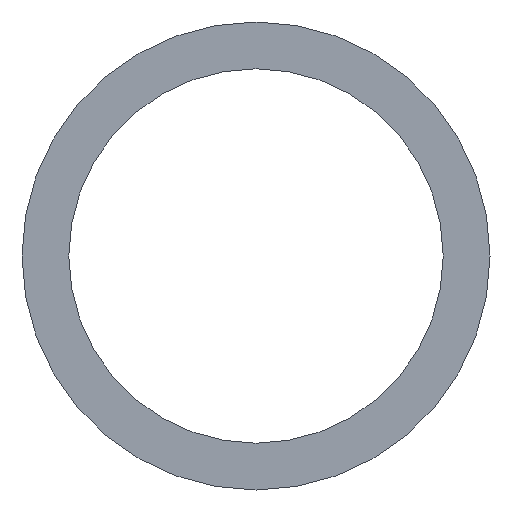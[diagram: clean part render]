
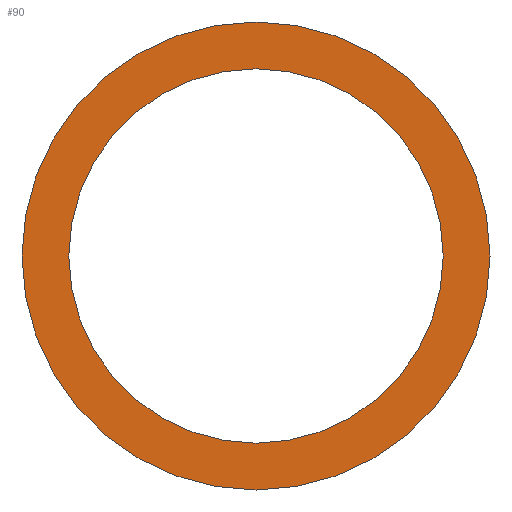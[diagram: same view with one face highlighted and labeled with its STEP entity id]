
A CAD part, front view. The second image highlights one B-rep face of the part: STEP entity #90.
In plain terms, the highlighted planar face has unit normal (0, -1, 0).
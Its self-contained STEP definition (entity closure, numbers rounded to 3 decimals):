
#1=CARTESIAN_POINT('',(0.,0.,0.));
#2=DIRECTION('',(0.,1.,0.));
#3=DIRECTION('',(1.,0.,0.));
#4=AXIS2_PLACEMENT_3D('',#1,#2,#3);
#6=CARTESIAN_POINT('',(0.,0.,0.));
#7=DIRECTION('',(0.,1.,0.));
#8=DIRECTION('',(-1.,0.,0.));
#9=AXIS2_PLACEMENT_3D('',#6,#7,#8);
#11=CARTESIAN_POINT('',(0.,0.,0.));
#12=DIRECTION('',(0.,-1.,0.));
#13=DIRECTION('',(1.,0.,0.));
#14=AXIS2_PLACEMENT_3D('',#11,#12,#13);
#16=CARTESIAN_POINT('',(0.,0.,0.));
#17=DIRECTION('',(0.,-1.,0.));
#18=DIRECTION('',(-1.,0.,0.));
#19=AXIS2_PLACEMENT_3D('',#16,#17,#18);
#57=CARTESIAN_POINT('',(5.,0.,0.));
#58=CARTESIAN_POINT('',(-5.,0.,0.));
#59=VERTEX_POINT('',#57);
#60=VERTEX_POINT('',#58);
#61=CARTESIAN_POINT('',(4.,0.,0.));
#62=CARTESIAN_POINT('',(-4.,0.,0.));
#63=VERTEX_POINT('',#61);
#64=VERTEX_POINT('',#62);
#73=CARTESIAN_POINT('',(0.,0.,0.));
#74=DIRECTION('',(0.,1.,0.));
#75=DIRECTION('',(1.,0.,0.));
#76=AXIS2_PLACEMENT_3D('',#73,#74,#75);
#77=PLANE('',#76);
#79=ORIENTED_EDGE('',*,*,#78,.T.);
#81=ORIENTED_EDGE('',*,*,#80,.T.);
#82=EDGE_LOOP('',(#79,#81));
#83=FACE_OUTER_BOUND('',#82,.F.);
#85=ORIENTED_EDGE('',*,*,#84,.T.);
#87=ORIENTED_EDGE('',*,*,#86,.T.);
#88=EDGE_LOOP('',(#85,#87));
#89=FACE_BOUND('',#88,.F.);
#90=ADVANCED_FACE('',(#83,#89),#77,.F.);
#5=CIRCLE('',#4,5.);
#10=CIRCLE('',#9,5.);
#15=CIRCLE('',#14,4.);
#20=CIRCLE('',#19,4.);
#78=EDGE_CURVE('',#59,#60,#5,.T.);
#80=EDGE_CURVE('',#60,#59,#10,.T.);
#84=EDGE_CURVE('',#63,#64,#15,.T.);
#86=EDGE_CURVE('',#64,#63,#20,.T.);
